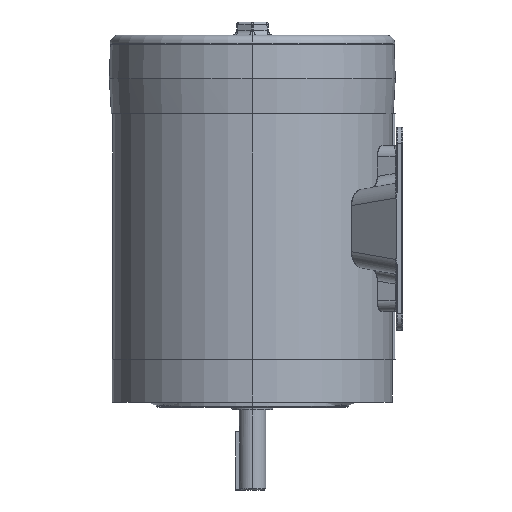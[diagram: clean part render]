
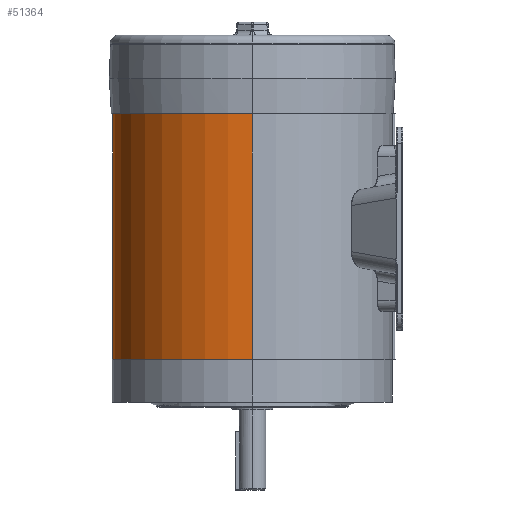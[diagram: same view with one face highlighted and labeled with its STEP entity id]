
A CAD part, left-side view. The second image highlights one B-rep face of the part: STEP entity #51364.
In plain terms, the highlighted cylindrical face has radius 83.21 mm (diameter 166.421 mm), a partial arc.
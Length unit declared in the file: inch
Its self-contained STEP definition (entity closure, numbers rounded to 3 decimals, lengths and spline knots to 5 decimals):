
#2821 = DIRECTION ( 'NONE',  ( 0., 0., 1. ) ) ;
#5608 = ORIENTED_EDGE ( 'NONE', *, *, #11905, .T. ) ;
#8550 = LINE ( 'NONE', #25393, #66675 ) ;
#8851 = EDGE_CURVE ( 'NONE', #20193, #9909, #8550, .T. ) ;
#9909 = VERTEX_POINT ( 'NONE', #14206 ) ;
#10229 = CARTESIAN_POINT ( 'NONE',  ( 3.276, 0., -0.37155 ) ) ;
#11905 = EDGE_CURVE ( 'NONE', #9909, #22243, #60870, .T. ) ;
#14206 = CARTESIAN_POINT ( 'NONE',  ( -3.276, 0., 5.37845 ) ) ;
#17283 = EDGE_LOOP ( 'NONE', ( #19270, #64480, #5608, #38874 ) ) ;
#19270 = ORIENTED_EDGE ( 'NONE', *, *, #60142, .F. ) ;
#20193 = VERTEX_POINT ( 'NONE', #59256 ) ;
#21550 = CYLINDRICAL_SURFACE ( 'NONE', #27125, 3.276 ) ;
#22243 = VERTEX_POINT ( 'NONE', #38752 ) ;
#25393 = CARTESIAN_POINT ( 'NONE',  ( -3.276, 0., -0.37155 ) ) ;
#27125 = AXIS2_PLACEMENT_3D ( 'NONE', #27242, #27767, #44991 ) ;
#27242 = CARTESIAN_POINT ( 'NONE',  ( 0., 0., -0.37155 ) ) ;
#27767 = DIRECTION ( 'NONE',  ( 0., 0., 1. ) ) ;
#29239 = DIRECTION ( 'NONE',  ( -1., 0., 0. ) ) ;
#29894 = CARTESIAN_POINT ( 'NONE',  ( 3.276, 0., -0.37155 ) ) ;
#30639 = FACE_OUTER_BOUND ( 'NONE', #17283, .T. ) ;
#38752 = CARTESIAN_POINT ( 'NONE',  ( 3.276, 0., 5.37845 ) ) ;
#38874 = ORIENTED_EDGE ( 'NONE', *, *, #54844, .F. ) ;
#39116 = DIRECTION ( 'NONE',  ( 0., 0., -1. ) ) ;
#44991 = DIRECTION ( 'NONE',  ( 1., 0., 0. ) ) ;
#49650 = VERTEX_POINT ( 'NONE', #10229 ) ;
#50100 = DIRECTION ( 'NONE',  ( -1., 0., 0. ) ) ;
#51364 = ADVANCED_FACE ( 'NONE', ( #30639 ), #21550, .T. ) ;
#52189 = CIRCLE ( 'NONE', #54563, 3.276 ) ;
#52505 = DIRECTION ( 'NONE',  ( 0., 0., 1. ) ) ;
#53097 = AXIS2_PLACEMENT_3D ( 'NONE', #73168, #39116, #50100 ) ;
#54563 = AXIS2_PLACEMENT_3D ( 'NONE', #58623, #63973, #29239 ) ;
#54820 = VECTOR ( 'NONE', #52505, 39.37008 ) ;
#54844 = EDGE_CURVE ( 'NONE', #49650, #22243, #69317, .T. ) ;
#58623 = CARTESIAN_POINT ( 'NONE',  ( 0., 0., -0.37155 ) ) ;
#59256 = CARTESIAN_POINT ( 'NONE',  ( -3.276, 0., -0.37155 ) ) ;
#60142 = EDGE_CURVE ( 'NONE', #20193, #49650, #52189, .T. ) ;
#60870 = CIRCLE ( 'NONE', #53097, 3.276 ) ;
#63973 = DIRECTION ( 'NONE',  ( 0., 0., -1. ) ) ;
#64480 = ORIENTED_EDGE ( 'NONE', *, *, #8851, .T. ) ;
#66675 = VECTOR ( 'NONE', #2821, 39.37008 ) ;
#69317 = LINE ( 'NONE', #29894, #54820 ) ;
#73168 = CARTESIAN_POINT ( 'NONE',  ( 0., 0., 5.37845 ) ) ;
